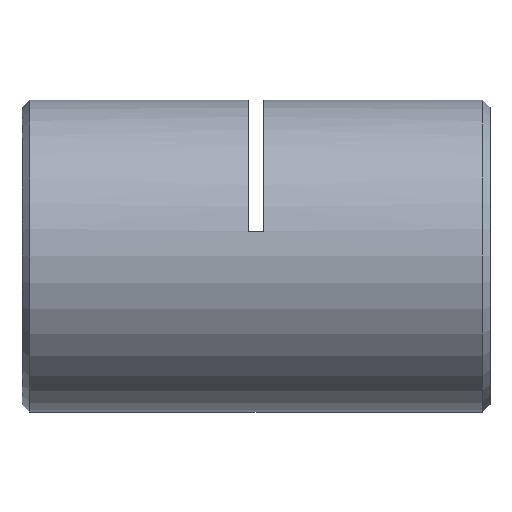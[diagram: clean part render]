
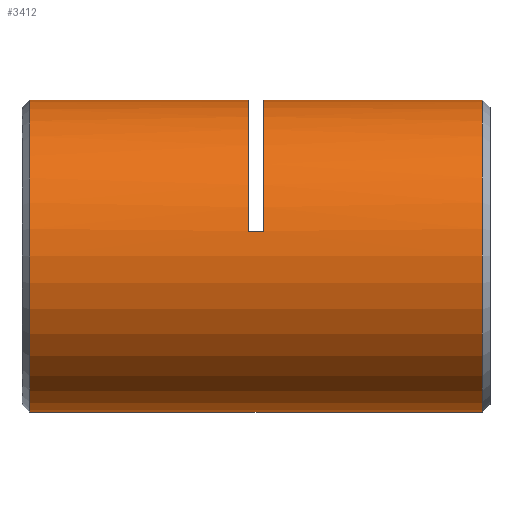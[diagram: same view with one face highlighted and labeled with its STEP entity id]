
A CAD part, left-side view. The second image highlights one B-rep face of the part: STEP entity #3412.
In plain terms, the highlighted cylindrical face has radius 8 mm (diameter 16 mm), a partial arc.
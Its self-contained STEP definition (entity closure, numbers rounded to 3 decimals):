
#5 = AXIS2_PLACEMENT_3D ( 'NONE', #1074, #6189, #4254 ) ;
#407 = EDGE_LOOP ( 'NONE', ( #3912, #4512, #5769, #3620, #4754, #1383, #5913, #610 ) ) ;
#429 = DIRECTION ( 'NONE',  ( 0., 0., 1. ) ) ;
#552 = DIRECTION ( 'NONE',  ( 0., 0., 1. ) ) ;
#554 = AXIS2_PLACEMENT_3D ( 'NONE', #878, #6325, #5365 ) ;
#610 = ORIENTED_EDGE ( 'NONE', *, *, #737, .T. ) ;
#737 = EDGE_CURVE ( 'NONE', #3223, #6463, #3771, .T. ) ;
#878 = CARTESIAN_POINT ( 'NONE',  ( 0., 23.85, 0. ) ) ;
#971 = VERTEX_POINT ( 'NONE', #5567 ) ;
#1074 = CARTESIAN_POINT ( 'NONE',  ( 0., 0.65, 0. ) ) ;
#1100 = CARTESIAN_POINT ( 'NONE',  ( 0., 12.65, 0. ) ) ;
#1160 = DIRECTION ( 'NONE',  ( 0., 0., 1. ) ) ;
#1383 = ORIENTED_EDGE ( 'NONE', *, *, #3826, .T. ) ;
#1658 = CIRCLE ( 'NONE', #2307, 8. ) ;
#1681 = EDGE_CURVE ( 'NONE', #4602, #6463, #5853, .T. ) ;
#1821 = DIRECTION ( 'NONE',  ( 0., 1., 0. ) ) ;
#1850 = EDGE_CURVE ( 'NONE', #4264, #3223, #2493, .T. ) ;
#1871 = LINE ( 'NONE', #2883, #6188 ) ;
#2126 = CARTESIAN_POINT ( 'NONE',  ( -7.897, 12.65, 1.28 ) ) ;
#2175 = VECTOR ( 'NONE', #5478, 1000. ) ;
#2290 = CARTESIAN_POINT ( 'NONE',  ( 0., 0.65, -8. ) ) ;
#2307 = AXIS2_PLACEMENT_3D ( 'NONE', #2546, #3565, #552 ) ;
#2431 = VERTEX_POINT ( 'NONE', #2126 ) ;
#2493 = LINE ( 'NONE', #5424, #3679 ) ;
#2546 = CARTESIAN_POINT ( 'NONE',  ( 0., 11.85, 0. ) ) ;
#2883 = CARTESIAN_POINT ( 'NONE',  ( 0., 0.25, 8. ) ) ;
#2898 = AXIS2_PLACEMENT_3D ( 'NONE', #4918, #4039, #429 ) ;
#2974 = VERTEX_POINT ( 'NONE', #4481 ) ;
#3223 = VERTEX_POINT ( 'NONE', #5763 ) ;
#3319 = VECTOR ( 'NONE', #6108, 1000. ) ;
#3412 = ADVANCED_FACE ( 'NONE', ( #4326 ), #4955, .T. ) ;
#3565 = DIRECTION ( 'NONE',  ( 0., 1., 0. ) ) ;
#3620 = ORIENTED_EDGE ( 'NONE', *, *, #3803, .F. ) ;
#3679 = VECTOR ( 'NONE', #6423, 1000. ) ;
#3771 = CIRCLE ( 'NONE', #554, 8. ) ;
#3803 = EDGE_CURVE ( 'NONE', #5326, #971, #1658, .T. ) ;
#3826 = EDGE_CURVE ( 'NONE', #2431, #4264, #5884, .T. ) ;
#3912 = ORIENTED_EDGE ( 'NONE', *, *, #1681, .F. ) ;
#3991 = CARTESIAN_POINT ( 'NONE',  ( 0., 12.65, 8. ) ) ;
#4039 = DIRECTION ( 'NONE',  ( 0., 1., 0. ) ) ;
#4136 = CARTESIAN_POINT ( 'NONE',  ( -7.897, 12.25, 1.28 ) ) ;
#4254 = DIRECTION ( 'NONE',  ( 0., 0., 1. ) ) ;
#4264 = VERTEX_POINT ( 'NONE', #3991 ) ;
#4326 = FACE_OUTER_BOUND ( 'NONE', #407, .T. ) ;
#4450 = AXIS2_PLACEMENT_3D ( 'NONE', #1100, #5170, #1160 ) ;
#4481 = CARTESIAN_POINT ( 'NONE',  ( 0., 0.65, 8. ) ) ;
#4512 = ORIENTED_EDGE ( 'NONE', *, *, #5206, .T. ) ;
#4602 = VERTEX_POINT ( 'NONE', #2290 ) ;
#4754 = ORIENTED_EDGE ( 'NONE', *, *, #5118, .T. ) ;
#4874 = CIRCLE ( 'NONE', #5, 8. ) ;
#4911 = CARTESIAN_POINT ( 'NONE',  ( 0., 0.25, -8. ) ) ;
#4918 = CARTESIAN_POINT ( 'NONE',  ( 0., 0.25, 0. ) ) ;
#4955 = CYLINDRICAL_SURFACE ( 'NONE', #2898, 8. ) ;
#5118 = EDGE_CURVE ( 'NONE', #5326, #2431, #5589, .T. ) ;
#5170 = DIRECTION ( 'NONE',  ( 0., 1., 0. ) ) ;
#5206 = EDGE_CURVE ( 'NONE', #4602, #2974, #4874, .T. ) ;
#5326 = VERTEX_POINT ( 'NONE', #6170 ) ;
#5365 = DIRECTION ( 'NONE',  ( 0., 0., -1. ) ) ;
#5424 = CARTESIAN_POINT ( 'NONE',  ( 0., 0.25, 8. ) ) ;
#5478 = DIRECTION ( 'NONE',  ( 0., 1., 0. ) ) ;
#5567 = CARTESIAN_POINT ( 'NONE',  ( 0., 11.85, 8. ) ) ;
#5589 = LINE ( 'NONE', #4136, #3319 ) ;
#5763 = CARTESIAN_POINT ( 'NONE',  ( 0., 23.85, 8. ) ) ;
#5769 = ORIENTED_EDGE ( 'NONE', *, *, #6362, .T. ) ;
#5853 = LINE ( 'NONE', #4911, #2175 ) ;
#5884 = CIRCLE ( 'NONE', #4450, 8. ) ;
#5913 = ORIENTED_EDGE ( 'NONE', *, *, #1850, .T. ) ;
#6002 = CARTESIAN_POINT ( 'NONE',  ( 0., 23.85, -8. ) ) ;
#6108 = DIRECTION ( 'NONE',  ( 0., 1., 0. ) ) ;
#6170 = CARTESIAN_POINT ( 'NONE',  ( -7.897, 11.85, 1.28 ) ) ;
#6188 = VECTOR ( 'NONE', #1821, 1000. ) ;
#6189 = DIRECTION ( 'NONE',  ( 0., 1., 0. ) ) ;
#6325 = DIRECTION ( 'NONE',  ( 0., -1., 0. ) ) ;
#6362 = EDGE_CURVE ( 'NONE', #2974, #971, #1871, .T. ) ;
#6423 = DIRECTION ( 'NONE',  ( 0., 1., 0. ) ) ;
#6463 = VERTEX_POINT ( 'NONE', #6002 ) ;
